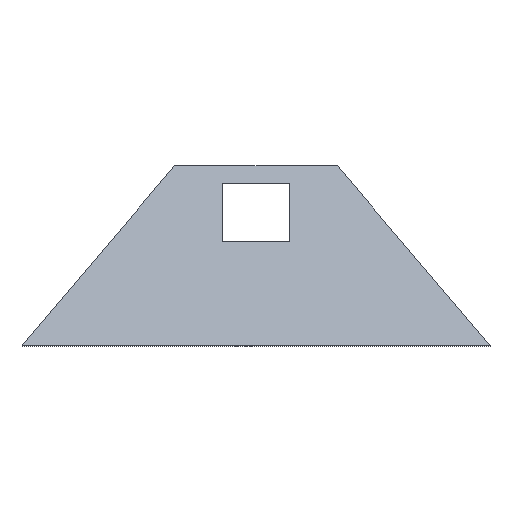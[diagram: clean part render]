
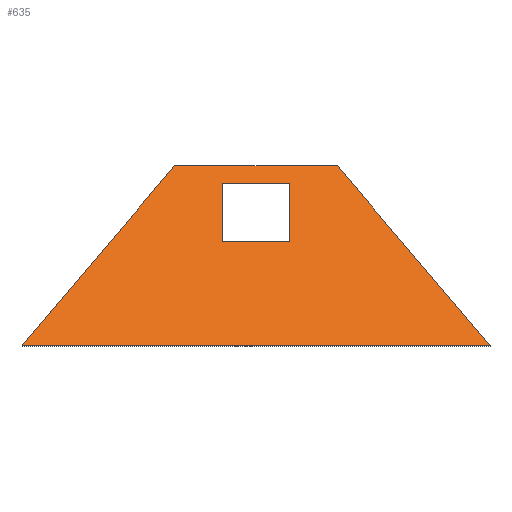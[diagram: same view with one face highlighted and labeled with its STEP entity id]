
A CAD part, top view. The second image highlights one B-rep face of the part: STEP entity #635.
In plain terms, the highlighted planar face has unit normal (0, 0.517, 0.856).
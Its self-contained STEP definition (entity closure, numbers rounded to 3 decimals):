
#22 = VERTEX_POINT('',#23);
#23 = CARTESIAN_POINT('',(-600.,-404.135,1593.151));
#32 = PLANE('',#33);
#33 = AXIS2_PLACEMENT_3D('',#34,#35,#36);
#34 = CARTESIAN_POINT('',(-600.,-404.135,1593.151));
#35 = DIRECTION('',(0.,-0.856,0.517));
#36 = DIRECTION('',(1.,0.,0.));
#44 = PLANE('',#45);
#45 = AXIS2_PLACEMENT_3D('',#46,#47,#48);
#46 = CARTESIAN_POINT('',(-1725.,-1729.135,
    2393.151));
#47 = DIRECTION('',(0.809,-0.503,0.304));
#48 = DIRECTION('',(0.588,0.692,-0.418));
#85 = VERTEX_POINT('',#86);
#86 = CARTESIAN_POINT('',(600.,-404.135,1593.151));
#100 = PLANE('',#101);
#101 = AXIS2_PLACEMENT_3D('',#102,#103,#104);
#102 = CARTESIAN_POINT('',(600.,-404.135,1593.151));
#103 = DIRECTION('',(-0.809,-0.503,0.304));
#104 = DIRECTION('',(0.588,-0.692,0.418));
#112 = EDGE_CURVE('',#22,#85,#113,.T.);
#113 = SURFACE_CURVE('',#114,(#118,#125),.PCURVE_S1.);
#114 = LINE('',#115,#116);
#115 = CARTESIAN_POINT('',(-600.,-404.135,1593.151));
#116 = VECTOR('',#117,1.);
#117 = DIRECTION('',(1.,0.,0.));
#118 = PCURVE('',#32,#119);
#119 = DEFINITIONAL_REPRESENTATION('',(#120),#124);
#120 = LINE('',#121,#122);
#121 = CARTESIAN_POINT('',(0.,0.));
#122 = VECTOR('',#123,1.);
#123 = DIRECTION('',(1.,0.));
#124 = ( GEOMETRIC_REPRESENTATION_CONTEXT(2) 
PARAMETRIC_REPRESENTATION_CONTEXT() REPRESENTATION_CONTEXT('2D SPACE',''
  ) );
#125 = PCURVE('',#126,#131);
#126 = PLANE('',#127);
#127 = AXIS2_PLACEMENT_3D('',#128,#129,#130);
#128 = CARTESIAN_POINT('',(0.,-1242.481,
    2099.323));
#129 = DIRECTION('',(-0.,-0.517,-0.856));
#130 = DIRECTION('',(0.,-0.856,0.517));
#131 = DEFINITIONAL_REPRESENTATION('',(#132),#136);
#132 = LINE('',#133,#134);
#133 = CARTESIAN_POINT('',(-979.302,600.));
#134 = VECTOR('',#135,1.);
#135 = DIRECTION('',(0.,-1.));
#136 = ( GEOMETRIC_REPRESENTATION_CONTEXT(2) 
PARAMETRIC_REPRESENTATION_CONTEXT() REPRESENTATION_CONTEXT('2D SPACE',''
  ) );
#166 = VERTEX_POINT('',#167);
#167 = CARTESIAN_POINT('',(1725.,-1729.135,
    2393.151));
#181 = PLANE('',#182);
#182 = AXIS2_PLACEMENT_3D('',#183,#184,#185);
#183 = CARTESIAN_POINT('',(1725.,-1729.135,
    2393.151));
#184 = DIRECTION('',(0.,0.856,-0.517));
#185 = DIRECTION('',(-1.,0.,0.));
#193 = EDGE_CURVE('',#85,#166,#194,.T.);
#194 = SURFACE_CURVE('',#195,(#199,#206),.PCURVE_S1.);
#195 = LINE('',#196,#197);
#196 = CARTESIAN_POINT('',(600.,-404.135,1593.151));
#197 = VECTOR('',#198,1.);
#198 = DIRECTION('',(0.588,-0.692,0.418));
#199 = PCURVE('',#100,#200);
#200 = DEFINITIONAL_REPRESENTATION('',(#201),#205);
#201 = LINE('',#202,#203);
#202 = CARTESIAN_POINT('',(0.,0.));
#203 = VECTOR('',#204,1.);
#204 = DIRECTION('',(1.,0.));
#205 = ( GEOMETRIC_REPRESENTATION_CONTEXT(2) 
PARAMETRIC_REPRESENTATION_CONTEXT() REPRESENTATION_CONTEXT('2D SPACE',''
  ) );
#206 = PCURVE('',#126,#207);
#207 = DEFINITIONAL_REPRESENTATION('',(#208),#212);
#208 = LINE('',#209,#210);
#209 = CARTESIAN_POINT('',(-979.302,-600.));
#210 = VECTOR('',#211,1.);
#211 = DIRECTION('',(0.809,-0.588));
#212 = ( GEOMETRIC_REPRESENTATION_CONTEXT(2) 
PARAMETRIC_REPRESENTATION_CONTEXT() REPRESENTATION_CONTEXT('2D SPACE',''
  ) );
#242 = VERTEX_POINT('',#243);
#243 = CARTESIAN_POINT('',(-1725.,-1729.135,
    2393.151));
#264 = EDGE_CURVE('',#166,#242,#265,.T.);
#265 = SURFACE_CURVE('',#266,(#270,#277),.PCURVE_S1.);
#266 = LINE('',#267,#268);
#267 = CARTESIAN_POINT('',(1725.,-1729.135,
    2393.151));
#268 = VECTOR('',#269,1.);
#269 = DIRECTION('',(-1.,0.,0.));
#270 = PCURVE('',#181,#271);
#271 = DEFINITIONAL_REPRESENTATION('',(#272),#276);
#272 = LINE('',#273,#274);
#273 = CARTESIAN_POINT('',(0.,0.));
#274 = VECTOR('',#275,1.);
#275 = DIRECTION('',(1.,0.));
#276 = ( GEOMETRIC_REPRESENTATION_CONTEXT(2) 
PARAMETRIC_REPRESENTATION_CONTEXT() REPRESENTATION_CONTEXT('2D SPACE',''
  ) );
#277 = PCURVE('',#126,#278);
#278 = DEFINITIONAL_REPRESENTATION('',(#279),#283);
#279 = LINE('',#280,#281);
#280 = CARTESIAN_POINT('',(568.478,-1725.));
#281 = VECTOR('',#282,1.);
#282 = DIRECTION('',(0.,1.));
#283 = ( GEOMETRIC_REPRESENTATION_CONTEXT(2) 
PARAMETRIC_REPRESENTATION_CONTEXT() REPRESENTATION_CONTEXT('2D SPACE',''
  ) );
#311 = EDGE_CURVE('',#242,#22,#312,.T.);
#312 = SURFACE_CURVE('',#313,(#317,#324),.PCURVE_S1.);
#313 = LINE('',#314,#315);
#314 = CARTESIAN_POINT('',(-1725.,-1729.135,
    2393.151));
#315 = VECTOR('',#316,1.);
#316 = DIRECTION('',(0.588,0.692,-0.418));
#317 = PCURVE('',#44,#318);
#318 = DEFINITIONAL_REPRESENTATION('',(#319),#323);
#319 = LINE('',#320,#321);
#320 = CARTESIAN_POINT('',(0.,0.));
#321 = VECTOR('',#322,1.);
#322 = DIRECTION('',(1.,0.));
#323 = ( GEOMETRIC_REPRESENTATION_CONTEXT(2) 
PARAMETRIC_REPRESENTATION_CONTEXT() REPRESENTATION_CONTEXT('2D SPACE',''
  ) );
#324 = PCURVE('',#126,#325);
#325 = DEFINITIONAL_REPRESENTATION('',(#326),#330);
#326 = LINE('',#327,#328);
#327 = CARTESIAN_POINT('',(568.478,1725.));
#328 = VECTOR('',#329,1.);
#329 = DIRECTION('',(-0.809,-0.588));
#330 = ( GEOMETRIC_REPRESENTATION_CONTEXT(2) 
PARAMETRIC_REPRESENTATION_CONTEXT() REPRESENTATION_CONTEXT('2D SPACE',''
  ) );
#336 = VERTEX_POINT('',#337);
#337 = CARTESIAN_POINT('',(-250.,-960.577,1929.116));
#346 = PLANE('',#347);
#347 = AXIS2_PLACEMENT_3D('',#348,#349,#350);
#348 = CARTESIAN_POINT('',(-250.,-960.577,1929.116));
#349 = DIRECTION('',(1.,0.,0.));
#350 = DIRECTION('',(0.,0.856,-0.517));
#358 = PLANE('',#359);
#359 = AXIS2_PLACEMENT_3D('',#360,#361,#362);
#360 = CARTESIAN_POINT('',(250.,-960.577,1929.116));
#361 = DIRECTION('',(0.,0.856,-0.517));
#362 = DIRECTION('',(-1.,0.,0.));
#394 = VERTEX_POINT('',#395);
#395 = CARTESIAN_POINT('',(-250.,-532.545,1670.682));
#409 = PLANE('',#410);
#410 = AXIS2_PLACEMENT_3D('',#411,#412,#413);
#411 = CARTESIAN_POINT('',(-250.,-532.545,1670.682));
#412 = DIRECTION('',(0.,-0.856,0.517));
#413 = DIRECTION('',(1.,0.,0.));
#421 = EDGE_CURVE('',#336,#394,#422,.T.);
#422 = SURFACE_CURVE('',#423,(#427,#434),.PCURVE_S1.);
#423 = LINE('',#424,#425);
#424 = CARTESIAN_POINT('',(-250.,-960.577,1929.116));
#425 = VECTOR('',#426,1.);
#426 = DIRECTION('',(0.,0.856,-0.517));
#427 = PCURVE('',#346,#428);
#428 = DEFINITIONAL_REPRESENTATION('',(#429),#433);
#429 = LINE('',#430,#431);
#430 = CARTESIAN_POINT('',(0.,0.));
#431 = VECTOR('',#432,1.);
#432 = DIRECTION('',(1.,0.));
#433 = ( GEOMETRIC_REPRESENTATION_CONTEXT(2) 
PARAMETRIC_REPRESENTATION_CONTEXT() REPRESENTATION_CONTEXT('2D SPACE',''
  ) );
#434 = PCURVE('',#126,#435);
#435 = DEFINITIONAL_REPRESENTATION('',(#436),#440);
#436 = LINE('',#437,#438);
#437 = CARTESIAN_POINT('',(-329.302,250.));
#438 = VECTOR('',#439,1.);
#439 = DIRECTION('',(-1.,0.));
#440 = ( GEOMETRIC_REPRESENTATION_CONTEXT(2) 
PARAMETRIC_REPRESENTATION_CONTEXT() REPRESENTATION_CONTEXT('2D SPACE',''
  ) );
#446 = VERTEX_POINT('',#447);
#447 = CARTESIAN_POINT('',(250.,-960.577,1929.116));
#463 = PLANE('',#464);
#464 = AXIS2_PLACEMENT_3D('',#465,#466,#467);
#465 = CARTESIAN_POINT('',(250.,-532.545,1670.682));
#466 = DIRECTION('',(-1.,-0.,0.));
#467 = DIRECTION('',(0.,-0.856,0.517));
#497 = EDGE_CURVE('',#446,#336,#498,.T.);
#498 = SURFACE_CURVE('',#499,(#503,#510),.PCURVE_S1.);
#499 = LINE('',#500,#501);
#500 = CARTESIAN_POINT('',(250.,-960.577,1929.116));
#501 = VECTOR('',#502,1.);
#502 = DIRECTION('',(-1.,0.,0.));
#503 = PCURVE('',#358,#504);
#504 = DEFINITIONAL_REPRESENTATION('',(#505),#509);
#505 = LINE('',#506,#507);
#506 = CARTESIAN_POINT('',(0.,0.));
#507 = VECTOR('',#508,1.);
#508 = DIRECTION('',(1.,0.));
#509 = ( GEOMETRIC_REPRESENTATION_CONTEXT(2) 
PARAMETRIC_REPRESENTATION_CONTEXT() REPRESENTATION_CONTEXT('2D SPACE',''
  ) );
#510 = PCURVE('',#126,#511);
#511 = DEFINITIONAL_REPRESENTATION('',(#512),#516);
#512 = LINE('',#513,#514);
#513 = CARTESIAN_POINT('',(-329.302,-250.));
#514 = VECTOR('',#515,1.);
#515 = DIRECTION('',(0.,1.));
#516 = ( GEOMETRIC_REPRESENTATION_CONTEXT(2) 
PARAMETRIC_REPRESENTATION_CONTEXT() REPRESENTATION_CONTEXT('2D SPACE',''
  ) );
#522 = VERTEX_POINT('',#523);
#523 = CARTESIAN_POINT('',(250.,-532.545,1670.682));
#568 = EDGE_CURVE('',#522,#446,#569,.T.);
#569 = SURFACE_CURVE('',#570,(#574,#581),.PCURVE_S1.);
#570 = LINE('',#571,#572);
#571 = CARTESIAN_POINT('',(250.,-532.545,1670.682));
#572 = VECTOR('',#573,1.);
#573 = DIRECTION('',(0.,-0.856,0.517));
#574 = PCURVE('',#463,#575);
#575 = DEFINITIONAL_REPRESENTATION('',(#576),#580);
#576 = LINE('',#577,#578);
#577 = CARTESIAN_POINT('',(0.,0.));
#578 = VECTOR('',#579,1.);
#579 = DIRECTION('',(1.,0.));
#580 = ( GEOMETRIC_REPRESENTATION_CONTEXT(2) 
PARAMETRIC_REPRESENTATION_CONTEXT() REPRESENTATION_CONTEXT('2D SPACE',''
  ) );
#581 = PCURVE('',#126,#582);
#582 = DEFINITIONAL_REPRESENTATION('',(#583),#587);
#583 = LINE('',#584,#585);
#584 = CARTESIAN_POINT('',(-829.302,-250.));
#585 = VECTOR('',#586,1.);
#586 = DIRECTION('',(1.,0.));
#587 = ( GEOMETRIC_REPRESENTATION_CONTEXT(2) 
PARAMETRIC_REPRESENTATION_CONTEXT() REPRESENTATION_CONTEXT('2D SPACE',''
  ) );
#615 = EDGE_CURVE('',#394,#522,#616,.T.);
#616 = SURFACE_CURVE('',#617,(#621,#628),.PCURVE_S1.);
#617 = LINE('',#618,#619);
#618 = CARTESIAN_POINT('',(-250.,-532.545,1670.682));
#619 = VECTOR('',#620,1.);
#620 = DIRECTION('',(1.,0.,0.));
#621 = PCURVE('',#409,#622);
#622 = DEFINITIONAL_REPRESENTATION('',(#623),#627);
#623 = LINE('',#624,#625);
#624 = CARTESIAN_POINT('',(0.,0.));
#625 = VECTOR('',#626,1.);
#626 = DIRECTION('',(1.,0.));
#627 = ( GEOMETRIC_REPRESENTATION_CONTEXT(2) 
PARAMETRIC_REPRESENTATION_CONTEXT() REPRESENTATION_CONTEXT('2D SPACE',''
  ) );
#628 = PCURVE('',#126,#629);
#629 = DEFINITIONAL_REPRESENTATION('',(#630),#634);
#630 = LINE('',#631,#632);
#631 = CARTESIAN_POINT('',(-829.302,250.));
#632 = VECTOR('',#633,1.);
#633 = DIRECTION('',(0.,-1.));
#634 = ( GEOMETRIC_REPRESENTATION_CONTEXT(2) 
PARAMETRIC_REPRESENTATION_CONTEXT() REPRESENTATION_CONTEXT('2D SPACE',''
  ) );
#635 = ADVANCED_FACE('',(#636,#642),#126,.F.);
#636 = FACE_BOUND('',#637,.F.);
#637 = EDGE_LOOP('',(#638,#639,#640,#641));
#638 = ORIENTED_EDGE('',*,*,#112,.T.);
#639 = ORIENTED_EDGE('',*,*,#193,.T.);
#640 = ORIENTED_EDGE('',*,*,#264,.T.);
#641 = ORIENTED_EDGE('',*,*,#311,.T.);
#642 = FACE_BOUND('',#643,.F.);
#643 = EDGE_LOOP('',(#644,#645,#646,#647));
#644 = ORIENTED_EDGE('',*,*,#421,.F.);
#645 = ORIENTED_EDGE('',*,*,#497,.F.);
#646 = ORIENTED_EDGE('',*,*,#568,.F.);
#647 = ORIENTED_EDGE('',*,*,#615,.F.);
